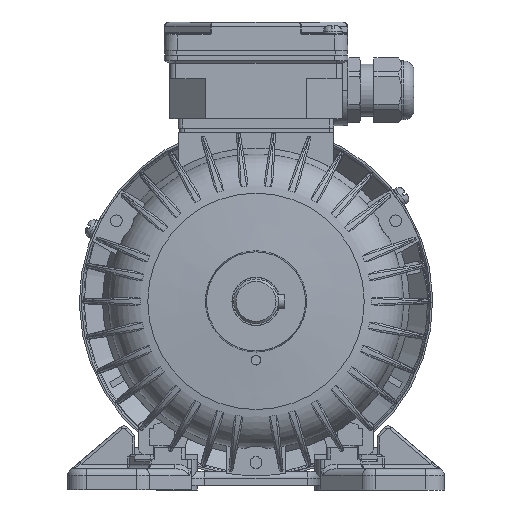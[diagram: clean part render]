
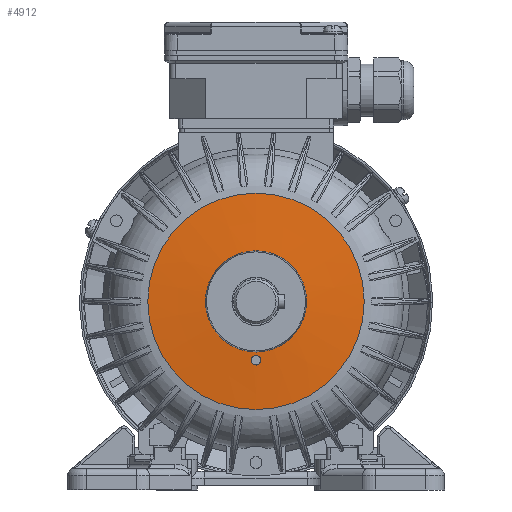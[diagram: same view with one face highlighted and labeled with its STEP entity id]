
A CAD part, left-side view. The second image highlights one B-rep face of the part: STEP entity #4912.
In plain terms, the highlighted conical face has half-angle 85.5 degrees and reference radius 21.472 mm.
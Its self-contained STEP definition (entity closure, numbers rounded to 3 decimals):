
#4912 = ADVANCED_FACE( '', ( #11343, #11344, #11345 ), #11346, .T. );
#11343 = FACE_OUTER_BOUND( '', #29284, .T. );
#11344 = FACE_BOUND( '', #29285, .T. );
#11345 = FACE_BOUND( '', #29286, .T. );
#11346 = CONICAL_SURFACE( '', #29287, 21.472, 1.492 );
#29284 = EDGE_LOOP( '', ( #63522 ) );
#29285 = EDGE_LOOP( '', ( #63523 ) );
#29286 = EDGE_LOOP( '', ( #63524 ) );
#29287 = AXIS2_PLACEMENT_3D( '', #63525, #63526, #63527 );
#63522 = ORIENTED_EDGE( '', *, *, #83037, .T. );
#63523 = ORIENTED_EDGE( '', *, *, #84814, .F. );
#63524 = ORIENTED_EDGE( '', *, *, #81385, .T. );
#63525 = CARTESIAN_POINT( '', ( 0., 6., 0. ) );
#63526 = DIRECTION( '', ( 0., 1., 0. ) );
#63527 = DIRECTION( '', ( 0., 0., 1. ) );
#81385 = EDGE_CURVE( '', #93514, #93514, #93515, .T. );
#83037 = EDGE_CURVE( '', #96343, #96343, #96344, .T. );
#84814 = EDGE_CURVE( '', #99198, #99198, #99199, .T. );
#93514 = VERTEX_POINT( '', #114308 );
#93515 = B_SPLINE_CURVE_WITH_KNOTS( '', 3, ( #114309, #114310, #114311, #114312, #114313, #114314, #114315, #114316, #114317, #114318, #114319, #114320, #114321, #114322, #114323, #114324, #114325, #114326, #114327, #114328, #114329, #114330, #114331, #114332, #114333, #114334, #114335, #114336, #114337, #114338, #114339, #114340, #114341, #114342, #114343, #114344, #114345, #114346, #114347, #114348, #114349, #114350, #114351, #114352, #114353, #114354, #114355, #114356, #114357, #114358, #114359, #114360, #114361, #114362, #114363, #114364 ), .UNSPECIFIED., .T., .F., ( 2, 2, 2, 2, 2, 2, 2, 2, 2, 2, 2, 2, 2, 2, 2, 2, 2, 2, 2, 2, 2, 2, 2, 2, 2, 2, 2, 2, 2, 2 ), ( -0.001, 0., 0., 0.001, 0.001, 0.002, 0.002, 0.003, 0.004, 0.004, 0.004, 0.005, 0.005, 0.005, 0.006, 0.006, 0.007, 0.007, 0.008, 0.008, 0.009, 0.009, 0.009, 0.01, 0.011, 0.011, 0.011, 0.012, 0.013, 0.013 ), .UNSPECIFIED. );
#96343 = VERTEX_POINT( '', #125945 );
#96344 = CIRCLE( '', #125946, 45.912 );
#99198 = VERTEX_POINT( '', #133438 );
#99199 = CIRCLE( '', #133439, 21.472 );
#114308 = CARTESIAN_POINT( '', ( -1.41, 6.392, -26.418 ) );
#114309 = CARTESIAN_POINT( '', ( -1.223, 6.406, -26.605 ) );
#114310 = CARTESIAN_POINT( '', ( -1.504, 6.385, -26.325 ) );
#114311 = CARTESIAN_POINT( '', ( -1.587, 6.378, -26.224 ) );
#114312 = CARTESIAN_POINT( '', ( -1.732, 6.362, -26.008 ) );
#114313 = CARTESIAN_POINT( '', ( -1.795, 6.353, -25.891 ) );
#114314 = CARTESIAN_POINT( '', ( -1.896, 6.334, -25.65 ) );
#114315 = CARTESIAN_POINT( '', ( -1.934, 6.325, -25.525 ) );
#114316 = CARTESIAN_POINT( '', ( -1.986, 6.305, -25.269 ) );
#114317 = CARTESIAN_POINT( '', ( -2., 6.295, -25.137 ) );
#114318 = CARTESIAN_POINT( '', ( -2.001, 6.264, -24.746 ) );
#114319 = CARTESIAN_POINT( '', ( -1.95, 6.243, -24.483 ) );
#114320 = CARTESIAN_POINT( '', ( -1.752, 6.204, -24.002 ) );
#114321 = CARTESIAN_POINT( '', ( -1.605, 6.186, -23.778 ) );
#114322 = CARTESIAN_POINT( '', ( -1.329, 6.163, -23.5 ) );
#114323 = CARTESIAN_POINT( '', ( -1.227, 6.155, -23.415 ) );
#114324 = CARTESIAN_POINT( '', ( -1.01, 6.143, -23.269 ) );
#114325 = CARTESIAN_POINT( '', ( -0.895, 6.138, -23.207 ) );
#114326 = CARTESIAN_POINT( '', ( -0.654, 6.129, -23.105 ) );
#114327 = CARTESIAN_POINT( '', ( -0.526, 6.126, -23.066 ) );
#114328 = CARTESIAN_POINT( '', ( -0.271, 6.121, -23.014 ) );
#114329 = CARTESIAN_POINT( '', ( -0.141, 6.12, -23.001 ) );
#114330 = CARTESIAN_POINT( '', ( 0.124, 6.12, -22.999 ) );
#114331 = CARTESIAN_POINT( '', ( 0.254, 6.121, -23.012 ) );
#114332 = CARTESIAN_POINT( '', ( 0.51, 6.126, -23.062 ) );
#114333 = CARTESIAN_POINT( '', ( 0.638, 6.129, -23.1 ) );
#114334 = CARTESIAN_POINT( '', ( 0.881, 6.137, -23.199 ) );
#114335 = CARTESIAN_POINT( '', ( 0.996, 6.142, -23.261 ) );
#114336 = CARTESIAN_POINT( '', ( 1.214, 6.155, -23.405 ) );
#114337 = CARTESIAN_POINT( '', ( 1.317, 6.162, -23.489 ) );
#114338 = CARTESIAN_POINT( '', ( 1.502, 6.177, -23.673 ) );
#114339 = CARTESIAN_POINT( '', ( 1.585, 6.185, -23.773 ) );
#114340 = CARTESIAN_POINT( '', ( 1.732, 6.203, -23.991 ) );
#114341 = CARTESIAN_POINT( '', ( 1.795, 6.213, -24.107 ) );
#114342 = CARTESIAN_POINT( '', ( 1.945, 6.242, -24.468 ) );
#114343 = CARTESIAN_POINT( '', ( 1.999, 6.263, -24.73 ) );
#114344 = CARTESIAN_POINT( '', ( 2.001, 6.293, -25.121 ) );
#114345 = CARTESIAN_POINT( '', ( 1.988, 6.304, -25.253 ) );
#114346 = CARTESIAN_POINT( '', ( 1.938, 6.324, -25.509 ) );
#114347 = CARTESIAN_POINT( '', ( 1.901, 6.333, -25.634 ) );
#114348 = CARTESIAN_POINT( '', ( 1.803, 6.352, -25.876 ) );
#114349 = CARTESIAN_POINT( '', ( 1.74, 6.36, -25.994 ) );
#114350 = CARTESIAN_POINT( '', ( 1.597, 6.377, -26.211 ) );
#114351 = CARTESIAN_POINT( '', ( 1.515, 6.384, -26.313 ) );
#114352 = CARTESIAN_POINT( '', ( 1.237, 6.405, -26.594 ) );
#114353 = CARTESIAN_POINT( '', ( 1.017, 6.416, -26.742 ) );
#114354 = CARTESIAN_POINT( '', ( 0.653, 6.427, -26.895 ) );
#114355 = CARTESIAN_POINT( '', ( 0.529, 6.43, -26.933 ) );
#114356 = CARTESIAN_POINT( '', ( 0.272, 6.434, -26.986 ) );
#114357 = CARTESIAN_POINT( '', ( 0.14, 6.435, -26.999 ) );
#114358 = CARTESIAN_POINT( '', ( -0.122, 6.435, -27.001 ) );
#114359 = CARTESIAN_POINT( '', ( -0.252, 6.434, -26.988 ) );
#114360 = CARTESIAN_POINT( '', ( -0.51, 6.431, -26.938 ) );
#114361 = CARTESIAN_POINT( '', ( -0.637, 6.428, -26.9 ) );
#114362 = CARTESIAN_POINT( '', ( -0.999, 6.417, -26.752 ) );
#114363 = CARTESIAN_POINT( '', ( -1.223, 6.406, -26.605 ) );
#114364 = CARTESIAN_POINT( '', ( -1.504, 6.385, -26.325 ) );
#125945 = CARTESIAN_POINT( '', ( 0., 7.923, -45.912 ) );
#125946 = AXIS2_PLACEMENT_3D( '', #154952, #154953, #154954 );
#133438 = CARTESIAN_POINT( '', ( 0., 6., -21.472 ) );
#133439 = AXIS2_PLACEMENT_3D( '', #157384, #157385, #157386 );
#154952 = CARTESIAN_POINT( '', ( 0., 7.923, 0. ) );
#154953 = DIRECTION( '', ( 0., -1., 0. ) );
#154954 = DIRECTION( '', ( 0., 0., -1. ) );
#157384 = CARTESIAN_POINT( '', ( 0., 6., 0. ) );
#157385 = DIRECTION( '', ( 0., -1., 0. ) );
#157386 = DIRECTION( '', ( 0., 0., -1. ) );
